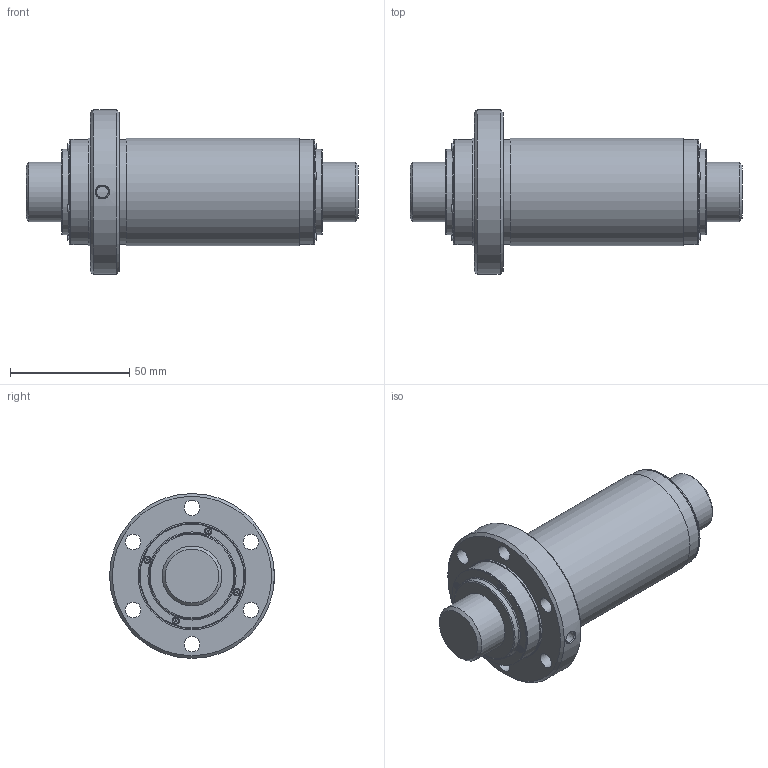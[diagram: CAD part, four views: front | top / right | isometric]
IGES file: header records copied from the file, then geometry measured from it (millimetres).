
Start section: Data from Parasolid IGES Translator 26.0.171, Copyright(c) 2006 Siemens PLM Software. All Rights Reserved.
Global section: file name: CNF2550-6ZZ+139LC7T_000_rev.igs; native system: By Siemens PLM Incorporated; preprocessor: XPlus GENERIC/IGES 26.0.171; author: Noname; organization: Noname; date: 20250611.064431; units: millimetre
Bounding box: 139 x 69 x 69 mm (x, y, z)
Surface area: 44249.9 mm2 (no closed solid volume)
Topology: 0 solids, 0 shells, 211 faces, 1068 edges, 992 vertices
Faces by surface type: extrusion 125, revolution 86
